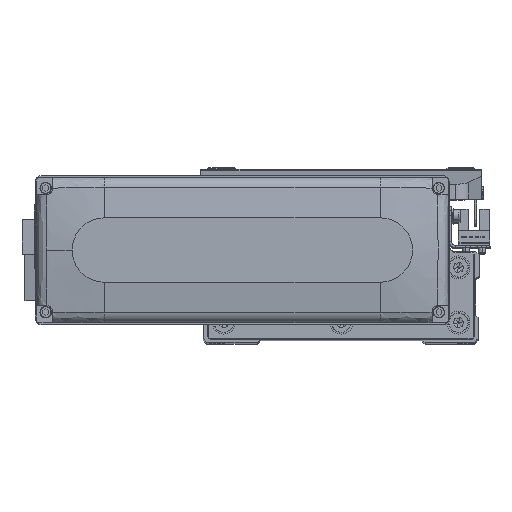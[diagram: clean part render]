
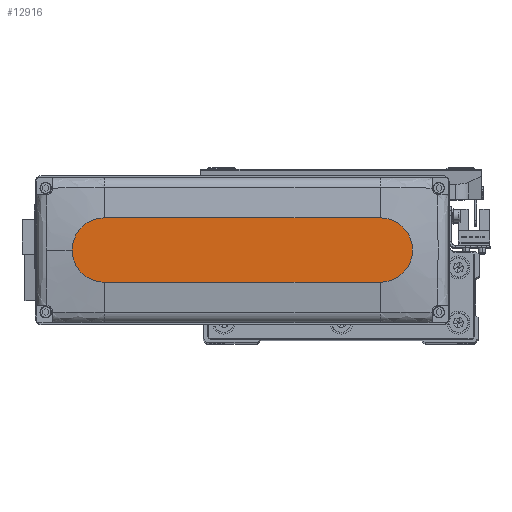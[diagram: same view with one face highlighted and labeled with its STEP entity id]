
A CAD part, top view. The second image highlights one B-rep face of the part: STEP entity #12916.
In plain terms, the highlighted planar face has unit normal (0, 0, 1).
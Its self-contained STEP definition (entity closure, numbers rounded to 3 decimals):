
#2612 = PLANE ( 'NONE',  #4027 ) ;
#2718 = CARTESIAN_POINT ( 'NONE',  ( 60., 14., 28.5 ) ) ;
#2871 = CIRCLE ( 'NONE', #27640, 14. ) ;
#3197 = VERTEX_POINT ( 'NONE', #6090 ) ;
#3304 = VECTOR ( 'NONE', #6239, 1000. ) ;
#4027 = AXIS2_PLACEMENT_3D ( 'NONE', #16186, #29653, #43107 ) ;
#4939 = CARTESIAN_POINT ( 'NONE',  ( 60., 0., 28.5 ) ) ;
#5231 = DIRECTION ( 'NONE',  ( 1., 0., 0. ) ) ;
#6090 = CARTESIAN_POINT ( 'NONE',  ( -60., -14., 28.5 ) ) ;
#6215 = ORIENTED_EDGE ( 'NONE', *, *, #18213, .T. ) ;
#6239 = DIRECTION ( 'NONE',  ( -1., 0., 0. ) ) ;
#7639 = CARTESIAN_POINT ( 'NONE',  ( 74., 0., 28.5 ) ) ;
#8955 = LINE ( 'NONE', #22473, #30129 ) ;
#10043 = DIRECTION ( 'NONE',  ( 1., 0., 0. ) ) ;
#10050 = VERTEX_POINT ( 'NONE', #22875 ) ;
#10480 = VERTEX_POINT ( 'NONE', #13048 ) ;
#12916 = ADVANCED_FACE ( 'NONE', ( #32957 ), #2612, .T. ) ;
#13048 = CARTESIAN_POINT ( 'NONE',  ( -60., 14., 28.5 ) ) ;
#13102 = AXIS2_PLACEMENT_3D ( 'NONE', #26878, #40333, #10043 ) ;
#13171 = AXIS2_PLACEMENT_3D ( 'NONE', #22092, #35565, #5231 ) ;
#16186 = CARTESIAN_POINT ( 'NONE',  ( 0., 0., 28.5 ) ) ;
#18213 = EDGE_CURVE ( 'NONE', #22806, #10480, #23077, .T. ) ;
#18476 = EDGE_LOOP ( 'NONE', ( #6215, #43557, #41025, #34338, #33198 ) ) ;
#18498 = DIRECTION ( 'NONE',  ( 0., 0., 1. ) ) ;
#22092 = CARTESIAN_POINT ( 'NONE',  ( -60., 0., 28.5 ) ) ;
#22473 = CARTESIAN_POINT ( 'NONE',  ( -60., -14., 28.5 ) ) ;
#22806 = VERTEX_POINT ( 'NONE', #2718 ) ;
#22857 = EDGE_CURVE ( 'NONE', #10050, #25647, #32149, .T. ) ;
#22875 = CARTESIAN_POINT ( 'NONE',  ( 60., -14., 28.5 ) ) ;
#23077 = LINE ( 'NONE', #36542, #3304 ) ;
#24069 = EDGE_CURVE ( 'NONE', #10480, #3197, #26583, .T. ) ;
#24537 = EDGE_CURVE ( 'NONE', #3197, #10050, #8955, .T. ) ;
#25647 = VERTEX_POINT ( 'NONE', #7639 ) ;
#26583 = CIRCLE ( 'NONE', #13171, 14. ) ;
#26878 = CARTESIAN_POINT ( 'NONE',  ( 60., 0., 28.5 ) ) ;
#27640 = AXIS2_PLACEMENT_3D ( 'NONE', #4939, #18498, #31966 ) ;
#29653 = DIRECTION ( 'NONE',  ( 0., 0., 1. ) ) ;
#30129 = VECTOR ( 'NONE', #35947, 1000. ) ;
#31966 = DIRECTION ( 'NONE',  ( 1., 0., 0. ) ) ;
#32149 = CIRCLE ( 'NONE', #13102, 14. ) ;
#32957 = FACE_OUTER_BOUND ( 'NONE', #18476, .T. ) ;
#33198 = ORIENTED_EDGE ( 'NONE', *, *, #33391, .T. ) ;
#33391 = EDGE_CURVE ( 'NONE', #25647, #22806, #2871, .T. ) ;
#34338 = ORIENTED_EDGE ( 'NONE', *, *, #22857, .T. ) ;
#35565 = DIRECTION ( 'NONE',  ( 0., 0., 1. ) ) ;
#35947 = DIRECTION ( 'NONE',  ( 1., 0., 0. ) ) ;
#36542 = CARTESIAN_POINT ( 'NONE',  ( -60., 14., 28.5 ) ) ;
#40333 = DIRECTION ( 'NONE',  ( 0., 0., 1. ) ) ;
#41025 = ORIENTED_EDGE ( 'NONE', *, *, #24537, .T. ) ;
#43107 = DIRECTION ( 'NONE',  ( 1., 0., 0. ) ) ;
#43557 = ORIENTED_EDGE ( 'NONE', *, *, #24069, .T. ) ;
